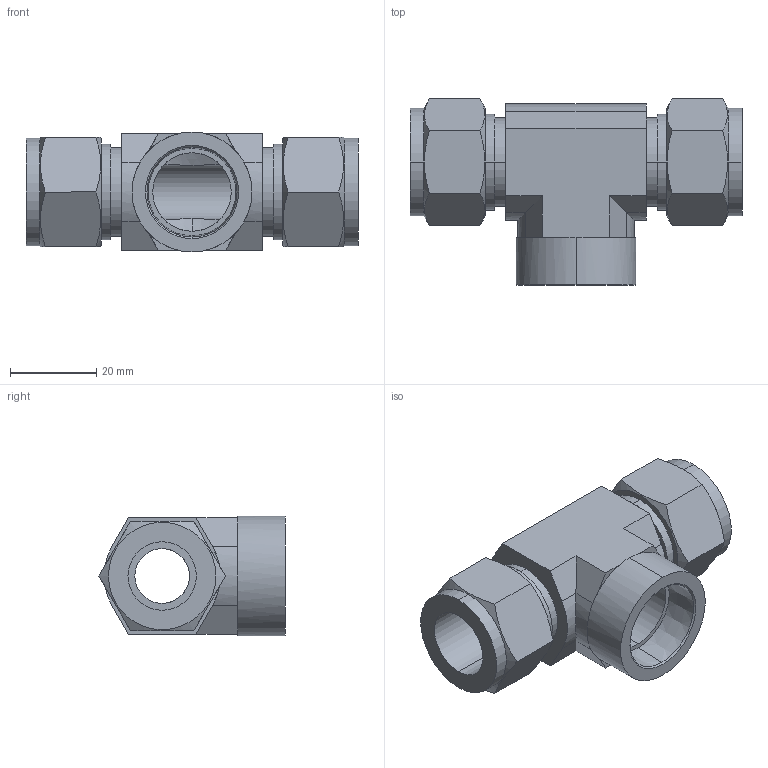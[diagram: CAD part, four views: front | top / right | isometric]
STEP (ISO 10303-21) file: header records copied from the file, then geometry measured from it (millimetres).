
FILE_DESCRIPTION (( 'STEP AP203' ), '1' );
FILE_NAME ('DTH10-08 SS.STEP', '2009-10-26T05:48:39', ( ' ' ), ( '' ), 'SwSTEP 2.0', 'SolidWorks 2008', '' );
FILE_SCHEMA (( 'CONFIG_CONTROL_DESIGN' ));
Length unit declared in the file: millimetre
Products named in the file (1): DTH10-08 SS
Bounding box: 77 x 43.16 x 27.8 mm (x, y, z)
Volume: 32309.7 mm3; surface area: 14508.4 mm2
Topology: 1 solids, 1 shells, 87 faces, 208 edges, 131 vertices
Faces by surface type: plane 44, cylinder 28, cone 15
Entity records: 2916 total; most frequent: CARTESIAN_POINT 830, ORIENTED_EDGE 416, DIRECTION 415, EDGE_CURVE 208, AXIS2_PLACEMENT_3D 158, VERTEX_POINT 131, EDGE_LOOP 99, VECTOR 99
